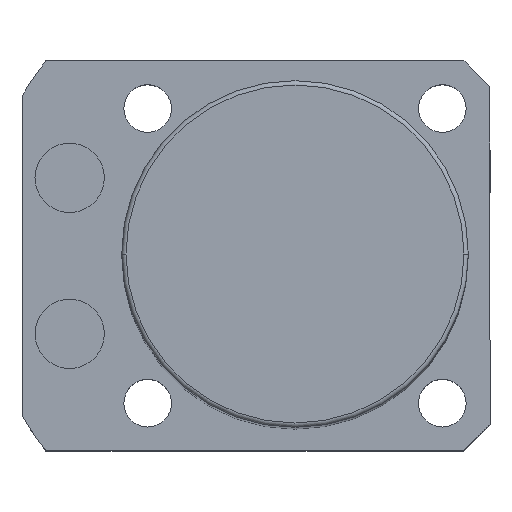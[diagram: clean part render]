
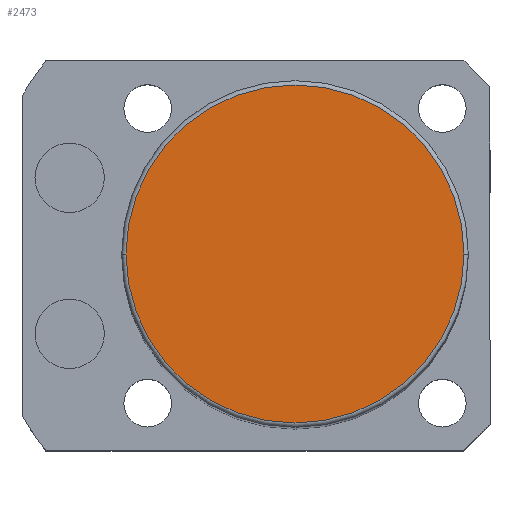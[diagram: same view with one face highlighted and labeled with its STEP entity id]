
A CAD part, top view. The second image highlights one B-rep face of the part: STEP entity #2473.
In plain terms, the highlighted planar face has unit normal (0, 0, 1).
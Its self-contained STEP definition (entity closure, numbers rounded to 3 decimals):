
#1147 = AXIS2_PLACEMENT_3D ( 'NONE', #4276, #2071, #2469 ) ;
#1235 = CARTESIAN_POINT ( 'NONE',  ( 0., 0., 133.5 ) ) ;
#1268 = PLANE ( 'NONE',  #5638 ) ;
#1645 = DIRECTION ( 'NONE',  ( 0., 0., 1. ) ) ;
#1709 = CARTESIAN_POINT ( 'NONE',  ( 0., 0., 133.5 ) ) ;
#1822 = EDGE_CURVE ( 'NONE', #5134, #5810, #2206, .T. ) ;
#2040 = AXIS2_PLACEMENT_3D ( 'NONE', #1235, #5806, #3480 ) ;
#2071 = DIRECTION ( 'NONE',  ( 0., 0., 1. ) ) ;
#2206 = CIRCLE ( 'NONE', #2040, 19.5 ) ;
#2469 = DIRECTION ( 'NONE',  ( 1., 0., 0. ) ) ;
#2473 = ADVANCED_FACE ( 'NONE', ( #2766 ), #1268, .T. ) ;
#2604 = DIRECTION ( 'NONE',  ( 1., 0., 0. ) ) ;
#2766 = FACE_OUTER_BOUND ( 'NONE', #3662, .T. ) ;
#2773 = CIRCLE ( 'NONE', #1147, 19.5 ) ;
#3480 = DIRECTION ( 'NONE',  ( 1., 0., 0. ) ) ;
#3662 = EDGE_LOOP ( 'NONE', ( #5286, #5607 ) ) ;
#4276 = CARTESIAN_POINT ( 'NONE',  ( 0., 0., 133.5 ) ) ;
#4390 = EDGE_CURVE ( 'NONE', #5810, #5134, #2773, .T. ) ;
#5121 = CARTESIAN_POINT ( 'NONE',  ( -19.5, 0., 133.5 ) ) ;
#5134 = VERTEX_POINT ( 'NONE', #5389 ) ;
#5286 = ORIENTED_EDGE ( 'NONE', *, *, #1822, .T. ) ;
#5389 = CARTESIAN_POINT ( 'NONE',  ( 19.5, 0., 133.5 ) ) ;
#5607 = ORIENTED_EDGE ( 'NONE', *, *, #4390, .T. ) ;
#5638 = AXIS2_PLACEMENT_3D ( 'NONE', #1709, #1645, #2604 ) ;
#5806 = DIRECTION ( 'NONE',  ( 0., 0., 1. ) ) ;
#5810 = VERTEX_POINT ( 'NONE', #5121 ) ;
